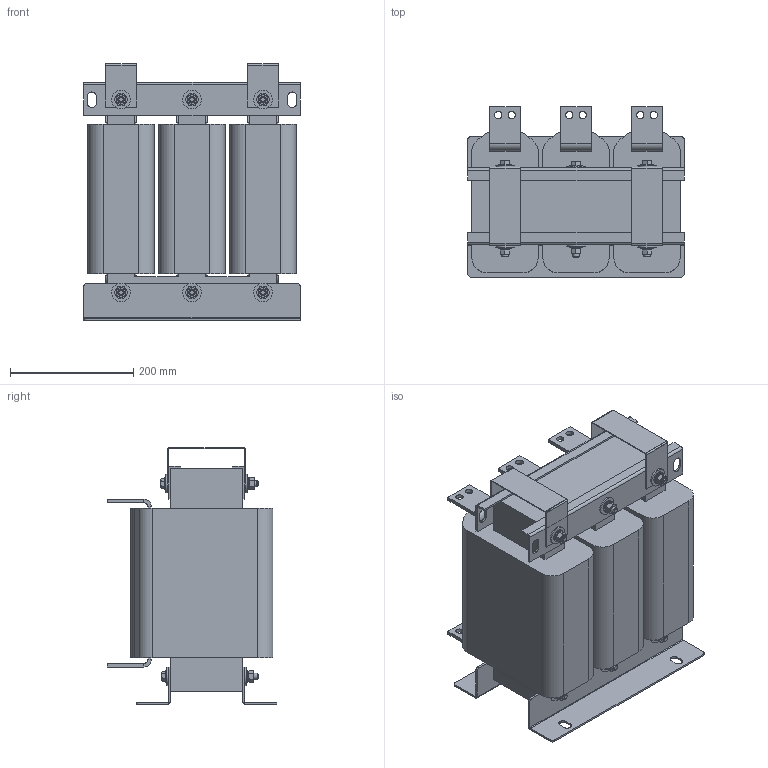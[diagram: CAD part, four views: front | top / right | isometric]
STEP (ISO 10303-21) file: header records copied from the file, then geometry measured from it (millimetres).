
FILE_DESCRIPTION(('STEP AP203'), '1');
FILE_NAME('Ñåòåâîé äðîññåëü _ ISF-630_1206-4', '', ('UNSPECIFIED'), ('UNSPECIFIED'), 'C3D Converter', 'C3D Toolkit', '');
FILE_SCHEMA(('CONFIG_CONTROL_DESIGN'));
Length unit declared in the file: millimetre
Products named in the file (17): ISF-630_1206-4; DIN 125 (A); DIN 127 (A); DIN 934; ГОСТ 15591-70
Assembly tree (63 placements, depth 3):
  ISF-630_1206-4
    ISF-630_1206-4
    ISF-630_1206-4  x2
    ISF-630_1206-4  x3
    ISF-630_1206-4  x6
    ISF-630_1206-4  x2
    (unnamed)  x12
      (unnamed)
    DIN 125 (A)  x12
      (unnamed)
    DIN 127 (A)  x6
      (unnamed)
    DIN 934  x6
      (unnamed)
    ГОСТ 15591-70  x6
      (unnamed)
    ISF-630_1206-4  x2
Bounding box: 350 x 275 x 415 mm (x, y, z)
Volume: 21407829.5 mm3; surface area: 1748632.4 mm2
Topology: 59 solids, 59 shells, 680 faces, 1454 edges, 898 vertices
Faces by surface type: plane 402, cylinder 176, cone 96, torus 6
Full cylindrical faces by diameter (mm): 8.376 x6, 10 x28, 10.5 x24, 12 x12, 20 x12, 30 x12
Entity records: 8595 total; most frequent: CARTESIAN_POINT 1834, DIRECTION 996, ORIENTED_EDGE 810, EDGE_CURVE 405, AXIS2_PLACEMENT_3D 373, VERTEX_POINT 269, EDGE_LOOP 268, LINE 250
